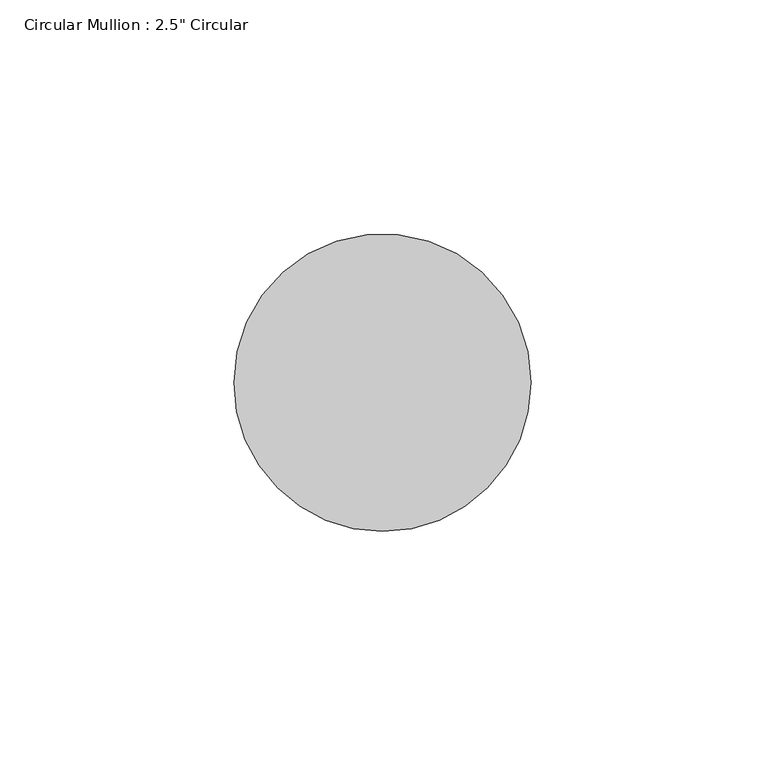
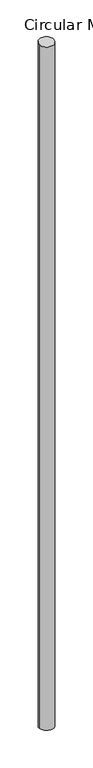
"""IFC4 building model written with IfcOpenShell, lengths in millimetres: member geometry."""

import ifcopenshell
import ifcopenshell.guid

model = None  # the IFC model being written
_history = None  # IfcOwnerHistory: only IFC2X3 demands one
_inside = {}  # id of a spatial element -> (the spatial element, [elements in it])
_under = {}  # id of a project, library or spatial element -> (it, [spatial elements below it])
_declared = {}  # id of a project -> (the project, [libraries it declares])
_typed = {}  # id of a type object -> (the type object, [elements of that type])
_made_of = {}  # id of a material, layer set ... -> (it, [elements and type objects made of it])


def new_model(schema):
    """Start an empty IFC model of exactly this schema.

    Asked for "IFC4X3", IfcOpenShell would pick the latest addendum, in which some entities
    have other attributes; the version numbers below select the first issue.
    IFC2X3 requires an IfcOwnerHistory on every rooted entity: one is made here for all.
    """
    global model, _history
    if schema == "IFC4X3":
        model = ifcopenshell.file(schema_version=(4, 3, 0, 0))
    else:
        model = ifcopenshell.file(schema=schema)
    _inside.clear()
    _under.clear()
    _declared.clear()
    _typed.clear()
    _made_of.clear()
    _history = None
    if model.schema == "IFC2X3":
        org = make("IfcOrganization", Name="unknown")
        user = make(
            "IfcPersonAndOrganization",
            ThePerson=make("IfcPerson", FamilyName="unknown"),
            TheOrganization=org,
        )
        app = make(
            "IfcApplication",
            ApplicationDeveloper=org,
            Version="unknown",
            ApplicationFullName="unknown",
            ApplicationIdentifier="unknown",
        )
        _history = make(
            "IfcOwnerHistory",
            OwningUser=user,
            OwningApplication=app,
            ChangeAction="ADDED",
            CreationDate=0,
        )
    return model


def make(cls, **values):
    """One entity of the class cls with the attributes given. An attribute that is None is left unset."""
    return model.create_entity(
        cls, **{name: value for name, value in values.items() if value is not None}
    )


def rooted(cls, **values):
    """An entity with a GlobalId (a new one), such as an element, a storey or a relation."""
    return make(cls, GlobalId=ifcopenshell.guid.new(), OwnerHistory=_history, **values)


def si_unit(unit_type, name, prefix=None):
    """IfcSIUnit, for example si_unit("LENGTHUNIT", "METRE", prefix="MILLI")."""
    return make("IfcSIUnit", UnitType=unit_type, Prefix=prefix, Name=name)


def assignment(units):
    """IfcUnitAssignment: the units of a project."""
    return None if units is None else make("IfcUnitAssignment", Units=units)


def point(xyz):
    """IfcCartesianPoint."""
    return None if xyz is None else make("IfcCartesianPoint", Coordinates=xyz)


def direction(xyz):
    """IfcDirection."""
    return None if xyz is None else make("IfcDirection", DirectionRatios=xyz)


def frame(location, z_axis=None, x_axis=None):
    """IfcAxis2Placement3D, a coordinate frame: its origin and axes. An axis left out is left unset."""
    return make(
        "IfcAxis2Placement3D",
        Location=point(location),
        Axis=direction(z_axis),
        RefDirection=direction(x_axis),
    )


def origin():
    """The frame at (0, 0, 0) with its axes left unset."""
    return frame((0.0, 0.0, 0.0))


def place(relative_to, where):
    """IfcLocalPlacement: puts the frame where relative to a parent placement (None: the world)."""
    return make(
        "IfcLocalPlacement", PlacementRelTo=relative_to, RelativePlacement=where
    )


def context(
    kind, dimensions, precision=None, world=None, true_north=None, identifier=None
):
    """IfcGeometricRepresentationContext, for example the 3D "Model" context."""
    return make(
        "IfcGeometricRepresentationContext",
        ContextIdentifier=identifier,
        ContextType=kind,
        CoordinateSpaceDimension=dimensions,
        Precision=precision,
        WorldCoordinateSystem=world,
        TrueNorth=true_north,
    )


def project(units=None, contexts=None):
    """IfcProject with its units and contexts."""
    return rooted(
        "IfcProject",
        Name="project",
        RepresentationContexts=contexts,
        UnitsInContext=assignment(units),
    )


def spatial(cls, under=None, at=None, **own):
    """A site, building, storey or space (cls), placed at a placement, below another one or the project."""
    s = rooted(cls, ObjectPlacement=at, **own)
    if under is not None:
        _under.setdefault(under.id(), (under, []))[1].append(s)
    return s


def ellipse_curve(where, semi_axis1, semi_axis2):
    """IfcEllipse in the frame where."""
    return make(
        "IfcEllipse", Position=where, SemiAxis1=semi_axis1, SemiAxis2=semi_axis2
    )


def shape(context_of_items, identifier, shape_type, items):
    """IfcShapeRepresentation: the items that make up one representation, for example the "Body"."""
    return make(
        "IfcShapeRepresentation",
        ContextOfItems=context_of_items,
        RepresentationIdentifier=identifier,
        RepresentationType=shape_type,
        Items=items,
    )


def source(mapping_origin, context_of_items, identifier, shape_type, items):
    """IfcRepresentationMap: a shape defined once, which mapped items show again and again."""
    return make(
        "IfcRepresentationMap",
        MappingOrigin=mapping_origin,
        MappedRepresentation=shape(context_of_items, identifier, shape_type, items),
    )


def transform(
    local_origin,
    x_axis=None,
    y_axis=None,
    z_axis=None,
    scale=None,
    scale2=None,
    scale3=None,
    uniform=True,
):
    """IfcCartesianTransformationOperator3D, or its non-uniform kind. x_axis, y_axis, z_axis: its Axis1, 2, 3."""
    if uniform:
        return make(
            "IfcCartesianTransformationOperator3D",
            Axis1=direction(x_axis),
            Axis2=direction(y_axis),
            LocalOrigin=point(local_origin),
            Scale=scale,
            Axis3=direction(z_axis),
        )
    return make(
        "IfcCartesianTransformationOperator3DnonUniform",
        Axis1=direction(x_axis),
        Axis2=direction(y_axis),
        LocalOrigin=point(local_origin),
        Scale=scale,
        Axis3=direction(z_axis),
        Scale2=scale2,
        Scale3=scale3,
    )


def mapped(mapping_source, mapping_target):
    """IfcMappedItem: shows the shape of a source again, moved by a transform."""
    return make(
        "IfcMappedItem", MappingSource=mapping_source, MappingTarget=mapping_target
    )


def made_of(thing, what):
    """Note that an element or type object is made of a material, layer set ...; save() writes the relation."""
    if what is not None:
        _made_of.setdefault(what.id(), (what, []))[1].append(thing)
    return thing


def element(
    cls,
    number,
    at=None,
    inside=None,
    cuts=None,
    type_object=None,
    material=None,
    context=None,
    identifier="Body",
    shape_type=None,
    held_by="IfcProductDefinitionShape",
    body=None,
    shapes=None,
    **own,
):
    """One element of the class cls, such as IfcWall. Its Tag is "e" and its number.

    at: its placement. inside: the storey or other place that contains it. cuts: it is an
    opening in that element (IfcRelVoidsElement). A single representation is given by context,
    identifier, shape_type and body (its items); several are given by shapes. held_by: the class
    of the entity that holds the representations. save() writes the other relations.
    """
    e = rooted(cls, Tag="e%d" % number, ObjectPlacement=at, **own)
    if body is not None:
        shapes = [shape(context, identifier, shape_type, body)]
    if shapes is not None:
        e.Representation = make(held_by, Representations=shapes)
    if inside is not None:
        _inside.setdefault(inside.id(), (inside, []))[1].append(e)
    if cuts is not None:
        rooted(
            "IfcRelVoidsElement", RelatingBuildingElement=cuts, RelatedOpeningElement=e
        )
    if type_object is not None:
        _typed.setdefault(type_object.id(), (type_object, []))[1].append(e)
    return made_of(e, material)


def aggregate(whole, parts):
    """IfcRelAggregates: a whole, such as a stair, and the parts it consists of."""
    return rooted("IfcRelAggregates", RelatingObject=whole, RelatedObjects=parts)


def save(model, path):
    """Write the relations noted so far, then the file.

    IfcRelAggregates (storeys below a building ...), IfcRelContainedInSpatialStructure (elements
    in a storey), IfcRelDefinesByType, IfcRelAssociatesMaterial and IfcRelDeclares: one each for
    every whole, place, type object, material and project.
    """
    for whole, parts in _under.values():
        aggregate(whole, parts)
    for where, things in _inside.values():
        rooted(
            "IfcRelContainedInSpatialStructure",
            RelatedElements=things,
            RelatingStructure=where,
        )
    for kind, things in _typed.values():
        rooted("IfcRelDefinesByType", RelatedObjects=things, RelatingType=kind)
    for what, things in _made_of.values():
        rooted("IfcRelAssociatesMaterial", RelatedObjects=things, RelatingMaterial=what)
    for by, libraries in _declared.values():
        rooted("IfcRelDeclares", RelatingContext=by, RelatedDefinitions=libraries)
    model.write(path)


def plane_surface(at):
    """IfcPlane: the flat surface through the origin of the frame at, square to its z axis."""
    return make("IfcPlane", Position=at)


def cylinder_surface(at, radius):
    """IfcCylindricalSurface: all points at the distance radius from the z axis of the frame at."""
    return make("IfcCylindricalSurface", Position=at, Radius=radius)


def advanced_brep(points, edges, surfaces, faces):
    """IfcAdvancedBrep: a solid bounded by faces that lie on surfaces and meet in shared edges.

    An edge is (start, end): straight between two places in points (the first is 0);
    or (start, end, curve); or (start, end, curve, False) where it runs against its curve.
    A face is (place in surfaces, loops), or (place, loops, False) where it looks against
    its surface's normal. A loop lists edges by number (the first is 1), with a minus sign
    where the edge is run from its end to its start. The first loop is the outer one.
    """
    corners = [point(p) for p in points]
    vertices = [make("IfcVertexPoint", VertexGeometry=c) for c in corners]
    made = []
    for start, end, *more in edges:
        made.append(
            make(
                "IfcEdgeCurve",
                EdgeStart=vertices[start],
                EdgeEnd=vertices[end],
                EdgeGeometry=more[0] if more else make("IfcPolyline", Points=[corners[start], corners[end]]),
                SameSense=more[1] if len(more) > 1 else True,
            )
        )
    hull = []
    for where, loops, *sense in faces:
        bounds = []
        for j, loop in enumerate(loops):
            ring = [make("IfcOrientedEdge", EdgeElement=made[abs(k) - 1], Orientation=k > 0) for k in loop]
            bounds.append(
                make(
                    "IfcFaceOuterBound" if j == 0 else "IfcFaceBound",
                    Bound=make("IfcEdgeLoop", EdgeList=ring),
                    Orientation=True,
                )
            )
        hull.append(make("IfcAdvancedFace", Bounds=bounds, FaceSurface=surfaces[where], SameSense=sense[0] if sense else True))
    return make("IfcAdvancedBrep", Outer=make("IfcClosedShell", CfsFaces=hull))


def member_4012dee8(model_context):
    return source(origin(), model_context, "Body", "AdvancedBrep", [
        advanced_brep(
        [(-63.5, 0.0, -1.1251289), (0.0, 0.0, 0.0), (0.0, 0.0, -3139.3056531), (-63.5, 0.0, -3137.6958736)],
        [
            (0, 1, ellipse_curve(frame((-31.75, 0.0, -0.5625645), z_axis=(0.01769226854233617, 0.05150843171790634, -0.998515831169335), x_axis=(0.3243717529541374, 0.9443605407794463, 0.054462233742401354)), 31.7971924, 31.75)),
            (1, 2),
            (2, 3, ellipse_curve(frame((-31.75, 0.0, -3138.5007634), z_axis=(0.02527401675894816, 0.073581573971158, 0.9969688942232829), x_axis=(-0.32386922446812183, -0.9428975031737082, 0.07780118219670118)), 31.8465302, 31.75)),
            (3, 0),
            (1, 0, ellipse_curve(frame((-31.75, 0.0, -0.5625645), z_axis=(0.01769226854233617, 0.05150843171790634, -0.998515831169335), x_axis=(0.3243717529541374, 0.9443605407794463, 0.054462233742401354)), 31.7971924, 31.75)),
            (3, 2, ellipse_curve(frame((-31.75, 0.0, -3138.5007634), z_axis=(0.02527401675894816, 0.073581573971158, 0.9969688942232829), x_axis=(-0.32386922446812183, -0.9428975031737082, 0.07780118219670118)), 31.8465302, 31.75)),
        ],
        [
            cylinder_surface(frame((-31.75, 0.0, 0.0), z_axis=(0.0, 0.0, 1.0), x_axis=(1.0, 0.0, 0.0)), 31.75),
            plane_surface(frame((288.2689326, -99.015466, 0.0), z_axis=(-0.01769226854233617, -0.05150843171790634, 0.998515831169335), x_axis=(-0.32437175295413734, -0.9443605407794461, -0.054462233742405))),
            plane_surface(frame((288.2689326, -99.015466, -3139.3056531), z_axis=(-0.02527401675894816, -0.073581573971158, -0.9969688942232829), x_axis=(-0.32386922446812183, -0.9428975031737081, 0.07780118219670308))),
        ],
        [
            (0, [[1, 2, 3, 4]]),
            (0, [[5, -4, 6, -2]]),
            (1, [[-1, -5]]),
            (2, [[-6, -3]]),
        ],
    ),
    ])


if __name__ == "__main__":
    model = new_model("IFC4")
    model_context = context("Model", 3, world=origin())
    ifc_project = project(units=[si_unit("LENGTHUNIT", "METRE", prefix="MILLI")], contexts=[model_context])
    site = spatial("IfcSite", under=ifc_project)
    building = spatial("IfcBuilding", under=site)
    placement = place(None, origin())
    member_shape = member_4012dee8(model_context)
    element("IfcMember", 1, ObjectType="Circular Mullion : 2.5\" Circular", at=placement, inside=building, context=model_context, shape_type="MappedRepresentation", body=[
        mapped(member_shape, transform((0.0, 0.0, 0.0), x_axis=(1.0, 0.0, 0.0), y_axis=(0.0, 1.0, 0.0), z_axis=(0.0, 0.0, 1.0))),
    ])
    save(model, "model.ifc")
